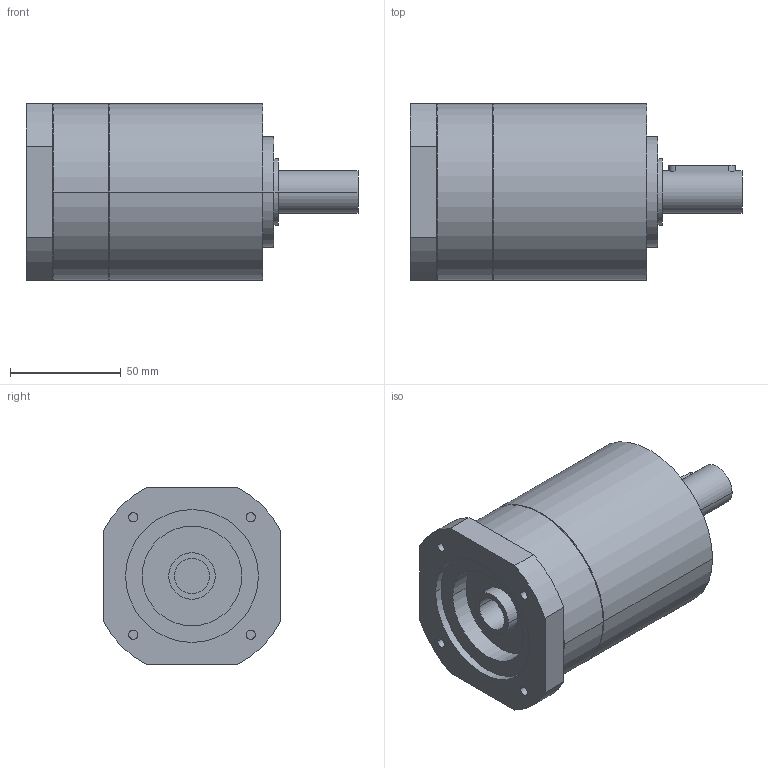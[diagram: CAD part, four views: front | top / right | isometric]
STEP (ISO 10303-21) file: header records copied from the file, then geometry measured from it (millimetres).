
FILE_DESCRIPTION(('CoCreate Modeling STEP Export'),'2;1');
FILE_NAME('GPR100_ig-3-4-5-6_19_B14_15.87_P23.stp','2014-08-26T10:07:51',(''),(''),'CoCreate Modeling STEP processor for AP214 (Solid Model)','CoCreate Modeling 16.00C 25-Feb-2009 (C) Parametric Technology GmbH','');
FILE_SCHEMA(('AUTOMOTIVE_DESIGN { 1 0 10303 214 1 1 1 1 }'));
Length unit declared in the file: millimetre
Products named in the file (2): GPR100_ig-3-4-5-6_19_B14_15.87_P23
Assembly tree (1 placements, depth 2):
  GPR100_ig-3-4-5-6_19_B14_15.87_P23
    GPR100_ig-3-4-5-6_19_B14_15.87_P23
Bounding box: 150 x 80 x 80 mm (x, y, z)
Volume: 537777.1 mm3; surface area: 48577.5 mm2
Topology: 1 solids, 1 shells, 74 faces, 185 edges, 129 vertices
Faces by surface type: cylinder 42, plane 26, cone 6
Entity records: 1933 total; most frequent: ORIENTED_EDGE 366, CARTESIAN_POINT 358, DIRECTION 264, EDGE_CURVE 183, VERTEX_POINT 129, AXIS2_PLACEMENT_3D 99, EDGE_LOOP 92, FACE_OUTER_BOUND 74
